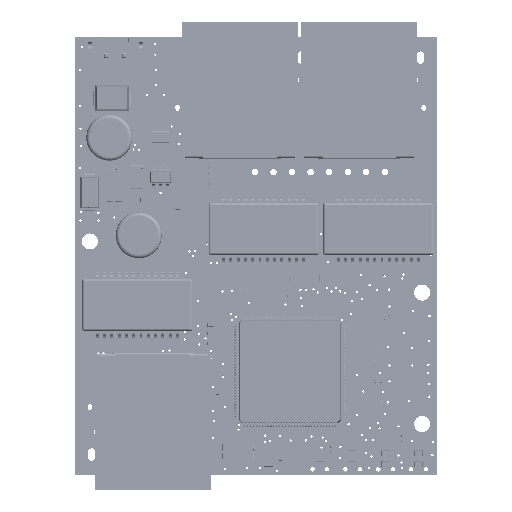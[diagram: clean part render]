
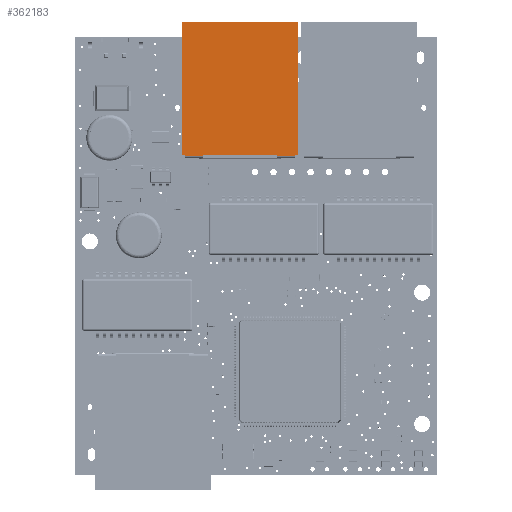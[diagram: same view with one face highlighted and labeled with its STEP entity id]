
A CAD part, top view. The second image highlights one B-rep face of the part: STEP entity #362183.
In plain terms, the highlighted planar face has unit normal (0, 0, 1).
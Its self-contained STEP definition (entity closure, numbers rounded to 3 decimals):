
#361866 = VERTEX_POINT('',#361867);
#361867 = CARTESIAN_POINT('',(-7.26,-6.33,
    13.42));
#361873 = EDGE_CURVE('',#361874,#361866,#361876,.T.);
#361874 = VERTEX_POINT('',#361875);
#361875 = CARTESIAN_POINT('',(-7.26,11.87,
    13.42));
#361876 = LINE('',#361877,#361878);
#361877 = CARTESIAN_POINT('',(-7.26,-6.33,
    13.42));
#361878 = VECTOR('',#361879,1.);
#361879 = DIRECTION('',(-0.,-1.,-0.));
#361904 = VERTEX_POINT('',#361905);
#361905 = CARTESIAN_POINT('',(8.54,-6.33,
    13.42));
#361911 = EDGE_CURVE('',#361866,#361904,#361912,.T.);
#361912 = LINE('',#361913,#361914);
#361913 = CARTESIAN_POINT('',(-7.26,-6.33,
    13.42));
#361914 = VECTOR('',#361915,1.);
#361915 = DIRECTION('',(1.,0.,0.));
#361935 = VERTEX_POINT('',#361936);
#361936 = CARTESIAN_POINT('',(8.54,11.87,
    13.42));
#361942 = EDGE_CURVE('',#361904,#361935,#361943,.T.);
#361943 = LINE('',#361944,#361945);
#361944 = CARTESIAN_POINT('',(8.54,-6.33,
    13.42));
#361945 = VECTOR('',#361946,1.);
#361946 = DIRECTION('',(0.,1.,0.));
#361966 = VERTEX_POINT('',#361967);
#361967 = CARTESIAN_POINT('',(8.14,11.87,
    13.42));
#361973 = EDGE_CURVE('',#361935,#361966,#361974,.T.);
#361974 = LINE('',#361975,#361976);
#361975 = CARTESIAN_POINT('',(8.14,11.87,
    13.42));
#361976 = VECTOR('',#361977,1.);
#361977 = DIRECTION('',(-1.,-0.,-0.));
#361997 = VERTEX_POINT('',#361998);
#361998 = CARTESIAN_POINT('',(8.14,11.987,
    13.42));
#362005 = EDGE_CURVE('',#361966,#361997,#362006,.T.);
#362006 = LINE('',#362007,#362008);
#362007 = CARTESIAN_POINT('',(8.14,12.27,
    13.42));
#362008 = VECTOR('',#362009,1.);
#362009 = DIRECTION('',(0.,1.,0.));
#362020 = EDGE_CURVE('',#362021,#362023,#362025,.T.);
#362021 = VERTEX_POINT('',#362022);
#362022 = CARTESIAN_POINT('',(5.64,11.987,
    13.42));
#362023 = VERTEX_POINT('',#362024);
#362024 = CARTESIAN_POINT('',(5.64,11.87,
    13.42));
#362025 = LINE('',#362026,#362027);
#362026 = CARTESIAN_POINT('',(5.64,11.87,
    13.42));
#362027 = VECTOR('',#362028,1.);
#362028 = DIRECTION('',(0.,-1.,0.));
#362070 = VERTEX_POINT('',#362071);
#362071 = CARTESIAN_POINT('',(-4.36,11.87,
    13.42));
#362077 = EDGE_CURVE('',#362023,#362070,#362078,.T.);
#362078 = LINE('',#362079,#362080);
#362079 = CARTESIAN_POINT('',(-4.36,11.87,
    13.42));
#362080 = VECTOR('',#362081,1.);
#362081 = DIRECTION('',(-1.,-0.,-0.));
#362101 = VERTEX_POINT('',#362102);
#362102 = CARTESIAN_POINT('',(-4.36,11.987,
    13.42));
#362109 = EDGE_CURVE('',#362070,#362101,#362110,.T.);
#362110 = LINE('',#362111,#362112);
#362111 = CARTESIAN_POINT('',(-4.36,12.27,
    13.42));
#362112 = VECTOR('',#362113,1.);
#362113 = DIRECTION('',(0.,1.,0.));
#362124 = EDGE_CURVE('',#362125,#362127,#362129,.T.);
#362125 = VERTEX_POINT('',#362126);
#362126 = CARTESIAN_POINT('',(-6.86,11.987,
    13.42));
#362127 = VERTEX_POINT('',#362128);
#362128 = CARTESIAN_POINT('',(-6.86,11.87,
    13.42));
#362129 = LINE('',#362130,#362131);
#362130 = CARTESIAN_POINT('',(-6.86,12.27,
    13.42));
#362131 = VECTOR('',#362132,1.);
#362132 = DIRECTION('',(0.,-1.,0.));
#362172 = EDGE_CURVE('',#362127,#361874,#362173,.T.);
#362173 = LINE('',#362174,#362175);
#362174 = CARTESIAN_POINT('',(-6.86,11.87,
    13.42));
#362175 = VECTOR('',#362176,1.);
#362176 = DIRECTION('',(-1.,0.,0.));
#362183 = ADVANCED_FACE('',(#362184),#362208,.T.);
#362184 = FACE_BOUND('',#362185,.T.);
#362185 = EDGE_LOOP('',(#362186,#362187,#362193,#362194,#362195,#362196,
    #362197,#362198,#362199,#362200,#362206,#362207));
#362186 = ORIENTED_EDGE('',*,*,#362109,.T.);
#362187 = ORIENTED_EDGE('',*,*,#362188,.T.);
#362188 = EDGE_CURVE('',#362101,#362125,#362189,.T.);
#362189 = LINE('',#362190,#362191);
#362190 = CARTESIAN_POINT('',(-6.86,11.987,
    13.42));
#362191 = VECTOR('',#362192,1.);
#362192 = DIRECTION('',(-1.,0.,0.));
#362193 = ORIENTED_EDGE('',*,*,#362124,.T.);
#362194 = ORIENTED_EDGE('',*,*,#362172,.T.);
#362195 = ORIENTED_EDGE('',*,*,#361873,.T.);
#362196 = ORIENTED_EDGE('',*,*,#361911,.T.);
#362197 = ORIENTED_EDGE('',*,*,#361942,.T.);
#362198 = ORIENTED_EDGE('',*,*,#361973,.T.);
#362199 = ORIENTED_EDGE('',*,*,#362005,.T.);
#362200 = ORIENTED_EDGE('',*,*,#362201,.T.);
#362201 = EDGE_CURVE('',#361997,#362021,#362202,.T.);
#362202 = LINE('',#362203,#362204);
#362203 = CARTESIAN_POINT('',(5.64,11.987,
    13.42));
#362204 = VECTOR('',#362205,1.);
#362205 = DIRECTION('',(-1.,0.,0.));
#362206 = ORIENTED_EDGE('',*,*,#362020,.T.);
#362207 = ORIENTED_EDGE('',*,*,#362077,.T.);
#362208 = PLANE('',#362209);
#362209 = AXIS2_PLACEMENT_3D('',#362210,#362211,#362212);
#362210 = CARTESIAN_POINT('',(0.64,2.97,
    13.42));
#362211 = DIRECTION('',(0.,0.,1.));
#362212 = DIRECTION('',(1.,0.,0.));
